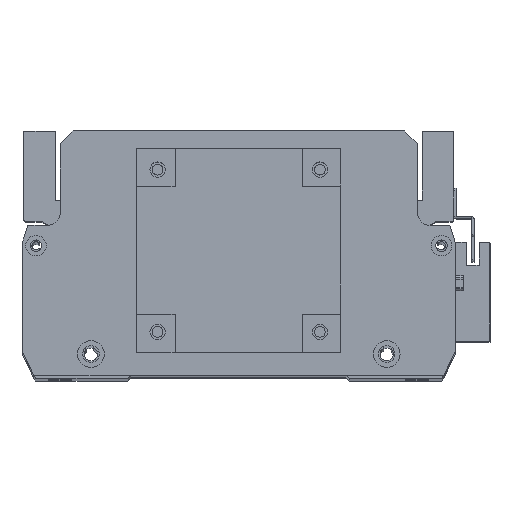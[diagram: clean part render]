
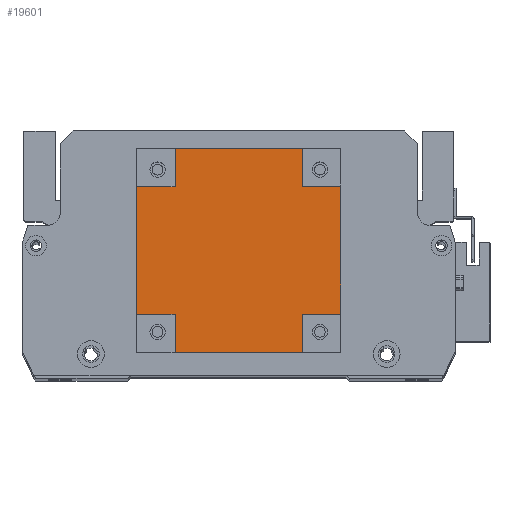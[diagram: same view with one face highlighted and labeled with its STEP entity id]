
A CAD part, top view. The second image highlights one B-rep face of the part: STEP entity #19601.
In plain terms, the highlighted planar face has unit normal (0, 0, 1).
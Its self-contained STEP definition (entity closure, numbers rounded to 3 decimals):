
#50 = DIRECTION ( 'NONE',  ( 1., 0., 0. ) ) ;
#707 = VECTOR ( 'NONE', #10469, 1000. ) ;
#934 = VERTEX_POINT ( 'NONE', #12279 ) ;
#1328 = EDGE_CURVE ( 'NONE', #15561, #8277, #21224, .T. ) ;
#1459 = VERTEX_POINT ( 'NONE', #6638 ) ;
#1742 = DIRECTION ( 'NONE',  ( 1., 0., 0. ) ) ;
#1767 = VERTEX_POINT ( 'NONE', #13668 ) ;
#2474 = VECTOR ( 'NONE', #14378, 1000. ) ;
#2883 = LINE ( 'NONE', #20091, #23108 ) ;
#3420 = CARTESIAN_POINT ( 'NONE',  ( 15., 80., 101.5 ) ) ;
#3751 = ORIENTED_EDGE ( 'NONE', *, *, #1328, .F. ) ;
#3999 = ORIENTED_EDGE ( 'NONE', *, *, #10445, .T. ) ;
#4022 = AXIS2_PLACEMENT_3D ( 'NONE', #23498, #17667, #5888 ) ;
#4096 = CARTESIAN_POINT ( 'NONE',  ( 0., 0., 101.5 ) ) ;
#4323 = CARTESIAN_POINT ( 'NONE',  ( 0., 65., 101.5 ) ) ;
#4566 = VECTOR ( 'NONE', #17842, 1000. ) ;
#4787 = VERTEX_POINT ( 'NONE', #23623 ) ;
#4921 = CARTESIAN_POINT ( 'NONE',  ( 15., 65., 101.5 ) ) ;
#5010 = VECTOR ( 'NONE', #23742, 1000. ) ;
#5617 = CARTESIAN_POINT ( 'NONE',  ( 15., 80., 101.5 ) ) ;
#5695 = ORIENTED_EDGE ( 'NONE', *, *, #19531, .T. ) ;
#5777 = LINE ( 'NONE', #4096, #4566 ) ;
#5888 = DIRECTION ( 'NONE',  ( -1., 0., 0. ) ) ;
#6090 = VERTEX_POINT ( 'NONE', #6158 ) ;
#6158 = CARTESIAN_POINT ( 'NONE',  ( 15., 15., 101.5 ) ) ;
#6212 = CARTESIAN_POINT ( 'NONE',  ( 65., 15., 101.5 ) ) ;
#6603 = ORIENTED_EDGE ( 'NONE', *, *, #18352, .F. ) ;
#6638 = CARTESIAN_POINT ( 'NONE',  ( 80., 65., 101.5 ) ) ;
#6684 = EDGE_CURVE ( 'NONE', #12972, #6090, #10201, .T. ) ;
#7322 = EDGE_CURVE ( 'NONE', #1767, #1459, #16338, .T. ) ;
#8270 = EDGE_LOOP ( 'NONE', ( #3999, #21212, #3751, #22246, #24529, #18814, #5695, #6603, #24045, #9199, #13953, #13331 ) ) ;
#8277 = VERTEX_POINT ( 'NONE', #4921 ) ;
#9076 = VECTOR ( 'NONE', #24024, 1000. ) ;
#9121 = DIRECTION ( 'NONE',  ( -1., 0., 0. ) ) ;
#9186 = EDGE_CURVE ( 'NONE', #15561, #25179, #5777, .T. ) ;
#9199 = ORIENTED_EDGE ( 'NONE', *, *, #7322, .T. ) ;
#9503 = LINE ( 'NONE', #20916, #21216 ) ;
#10000 = CARTESIAN_POINT ( 'NONE',  ( 0., 65., 101.5 ) ) ;
#10201 = LINE ( 'NONE', #11965, #5010 ) ;
#10414 = CARTESIAN_POINT ( 'NONE',  ( 65., 0., 101.5 ) ) ;
#10445 = EDGE_CURVE ( 'NONE', #15929, #18016, #2883, .T. ) ;
#10469 = DIRECTION ( 'NONE',  ( 0., 1., 0. ) ) ;
#11463 = CARTESIAN_POINT ( 'NONE',  ( 0., 0., 101.5 ) ) ;
#11716 = PLANE ( 'NONE',  #4022 ) ;
#11783 = CARTESIAN_POINT ( 'NONE',  ( 0., 15., 101.5 ) ) ;
#11870 = DIRECTION ( 'NONE',  ( -1., 0., 0. ) ) ;
#11886 = LINE ( 'NONE', #11463, #16508 ) ;
#11955 = EDGE_CURVE ( 'NONE', #1767, #16593, #9503, .T. ) ;
#11965 = CARTESIAN_POINT ( 'NONE',  ( 15., 0., 101.5 ) ) ;
#12279 = CARTESIAN_POINT ( 'NONE',  ( 65., 0., 101.5 ) ) ;
#12752 = VECTOR ( 'NONE', #11870, 1000. ) ;
#12972 = VERTEX_POINT ( 'NONE', #18464 ) ;
#13331 = ORIENTED_EDGE ( 'NONE', *, *, #21010, .F. ) ;
#13668 = CARTESIAN_POINT ( 'NONE',  ( 80., 15., 101.5 ) ) ;
#13953 = ORIENTED_EDGE ( 'NONE', *, *, #15002, .F. ) ;
#14319 = LINE ( 'NONE', #22060, #9076 ) ;
#14378 = DIRECTION ( 'NONE',  ( 0., -1., 0. ) ) ;
#15002 = EDGE_CURVE ( 'NONE', #4787, #1459, #21106, .T. ) ;
#15251 = VECTOR ( 'NONE', #50, 1000. ) ;
#15481 = LINE ( 'NONE', #5617, #25260 ) ;
#15561 = VERTEX_POINT ( 'NONE', #10000 ) ;
#15622 = CARTESIAN_POINT ( 'NONE',  ( 65., 65., 101.5 ) ) ;
#15929 = VERTEX_POINT ( 'NONE', #25076 ) ;
#16064 = EDGE_CURVE ( 'NONE', #6090, #25179, #24409, .T. ) ;
#16090 = DIRECTION ( 'NONE',  ( 1., 0., 0. ) ) ;
#16338 = LINE ( 'NONE', #22255, #707 ) ;
#16508 = VECTOR ( 'NONE', #1742, 1000. ) ;
#16593 = VERTEX_POINT ( 'NONE', #6212 ) ;
#17394 = DIRECTION ( 'NONE',  ( 0., 1., 0. ) ) ;
#17667 = DIRECTION ( 'NONE',  ( 0., 0., -1. ) ) ;
#17842 = DIRECTION ( 'NONE',  ( 0., -1., 0. ) ) ;
#18016 = VERTEX_POINT ( 'NONE', #3420 ) ;
#18352 = EDGE_CURVE ( 'NONE', #16593, #934, #23319, .T. ) ;
#18464 = CARTESIAN_POINT ( 'NONE',  ( 15., 0., 101.5 ) ) ;
#18814 = ORIENTED_EDGE ( 'NONE', *, *, #6684, .F. ) ;
#19531 = EDGE_CURVE ( 'NONE', #12972, #934, #11886, .T. ) ;
#19601 = ADVANCED_FACE ( 'NONE', ( #20512 ), #11716, .F. ) ;
#20091 = CARTESIAN_POINT ( 'NONE',  ( 0., 80., 101.5 ) ) ;
#20512 = FACE_OUTER_BOUND ( 'NONE', #8270, .T. ) ;
#20916 = CARTESIAN_POINT ( 'NONE',  ( 80., 15., 101.5 ) ) ;
#21010 = EDGE_CURVE ( 'NONE', #15929, #4787, #14319, .T. ) ;
#21106 = LINE ( 'NONE', #15622, #15251 ) ;
#21212 = ORIENTED_EDGE ( 'NONE', *, *, #22351, .F. ) ;
#21216 = VECTOR ( 'NONE', #9121, 1000. ) ;
#21224 = LINE ( 'NONE', #4323, #25165 ) ;
#22060 = CARTESIAN_POINT ( 'NONE',  ( 65., 80., 101.5 ) ) ;
#22246 = ORIENTED_EDGE ( 'NONE', *, *, #9186, .T. ) ;
#22255 = CARTESIAN_POINT ( 'NONE',  ( 80., 0., 101.5 ) ) ;
#22351 = EDGE_CURVE ( 'NONE', #8277, #18016, #15481, .T. ) ;
#23108 = VECTOR ( 'NONE', #24027, 1000. ) ;
#23319 = LINE ( 'NONE', #10414, #2474 ) ;
#23498 = CARTESIAN_POINT ( 'NONE',  ( 0., 0., 101.5 ) ) ;
#23623 = CARTESIAN_POINT ( 'NONE',  ( 65., 65., 101.5 ) ) ;
#23742 = DIRECTION ( 'NONE',  ( 0., 1., 0. ) ) ;
#24024 = DIRECTION ( 'NONE',  ( 0., -1., 0. ) ) ;
#24027 = DIRECTION ( 'NONE',  ( -1., 0., 0. ) ) ;
#24045 = ORIENTED_EDGE ( 'NONE', *, *, #11955, .F. ) ;
#24409 = LINE ( 'NONE', #11783, #12752 ) ;
#24529 = ORIENTED_EDGE ( 'NONE', *, *, #16064, .F. ) ;
#25076 = CARTESIAN_POINT ( 'NONE',  ( 65., 80., 101.5 ) ) ;
#25165 = VECTOR ( 'NONE', #16090, 1000. ) ;
#25179 = VERTEX_POINT ( 'NONE', #25334 ) ;
#25260 = VECTOR ( 'NONE', #17394, 1000. ) ;
#25334 = CARTESIAN_POINT ( 'NONE',  ( 0., 15., 101.5 ) ) ;
